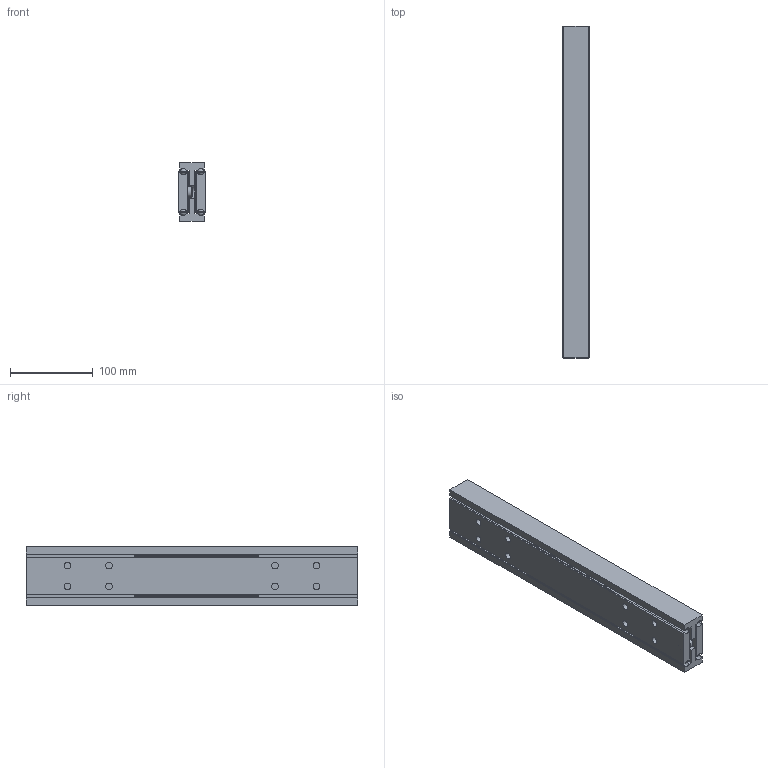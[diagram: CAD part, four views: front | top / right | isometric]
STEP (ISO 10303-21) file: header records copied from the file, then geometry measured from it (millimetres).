
FILE_DESCRIPTION(/* description */ (''),/* implementation_level */ '2;1');
FILE_NAME(/* name */ 'D:\Zeichnungen Schienen Komplett\MX-DTP70\MX-DTP70.040\MX-DTP70.040_eingefahren.step',/* time_stamp */ '2022-03-03T12:30:38+01:00',/* author */ ('zmile'),/* organization */ (''),/* preprocessor_version */ 'ST-DEVELOPER v16.13',/* originating_system */ 'AutoCAD Mechanical',/* authorisation */ '');
FILE_SCHEMA (('AUTOMOTIVE_DESIGN { 1 0 10303 214 3 1 1 }'));
Length unit declared in the file: millimetre
Products named in the file (1): Product
Bounding box: 32 x 400 x 70 mm (x, y, z)
Volume: 678026.8 mm3; surface area: 242846 mm2
Topology: 25 solids, 27 shells, 146 faces, 428 edges, 296 vertices
Faces by surface type: plane 82, cylinder 30, sphere 20, bspline 8, torus 6
Full cylindrical faces by diameter (mm): 8 x16, 13 x2
Entity records: 11063 total; most frequent: CARTESIAN_POINT 7259, DIRECTION 754, ORIENTED_EDGE 652, EDGE_CURVE 362, VERTEX_POINT 294, AXIS2_PLACEMENT_3D 271, EDGE_LOOP 246, LINE 212
